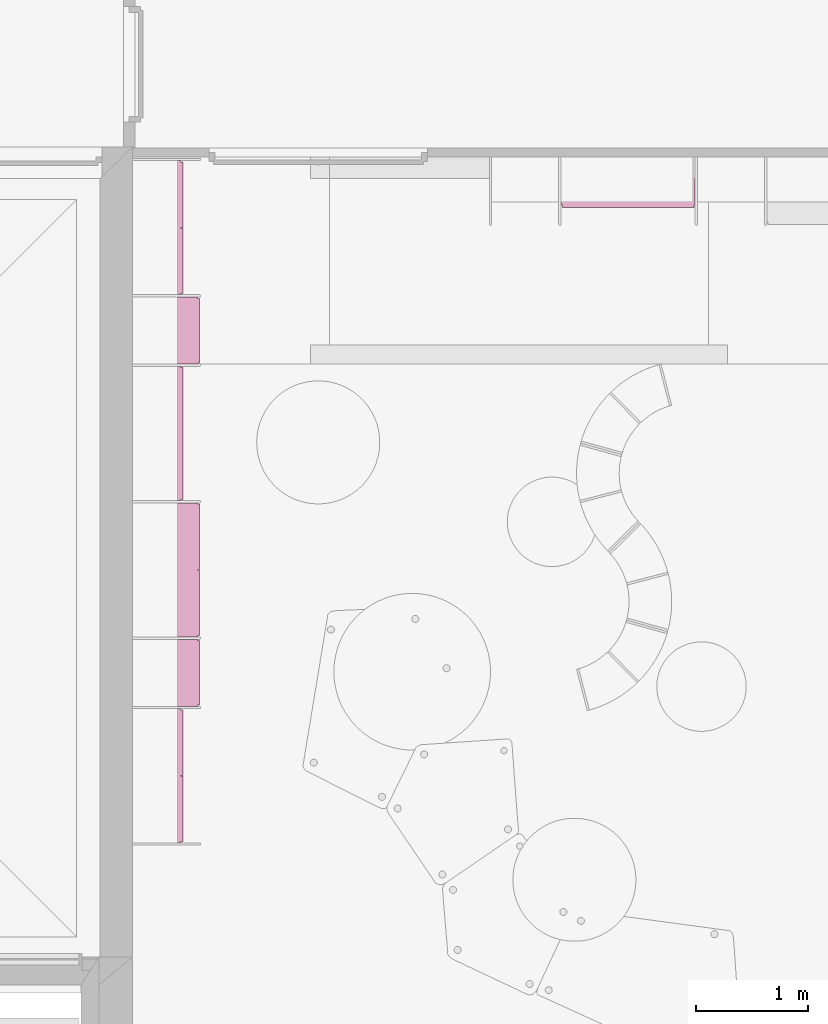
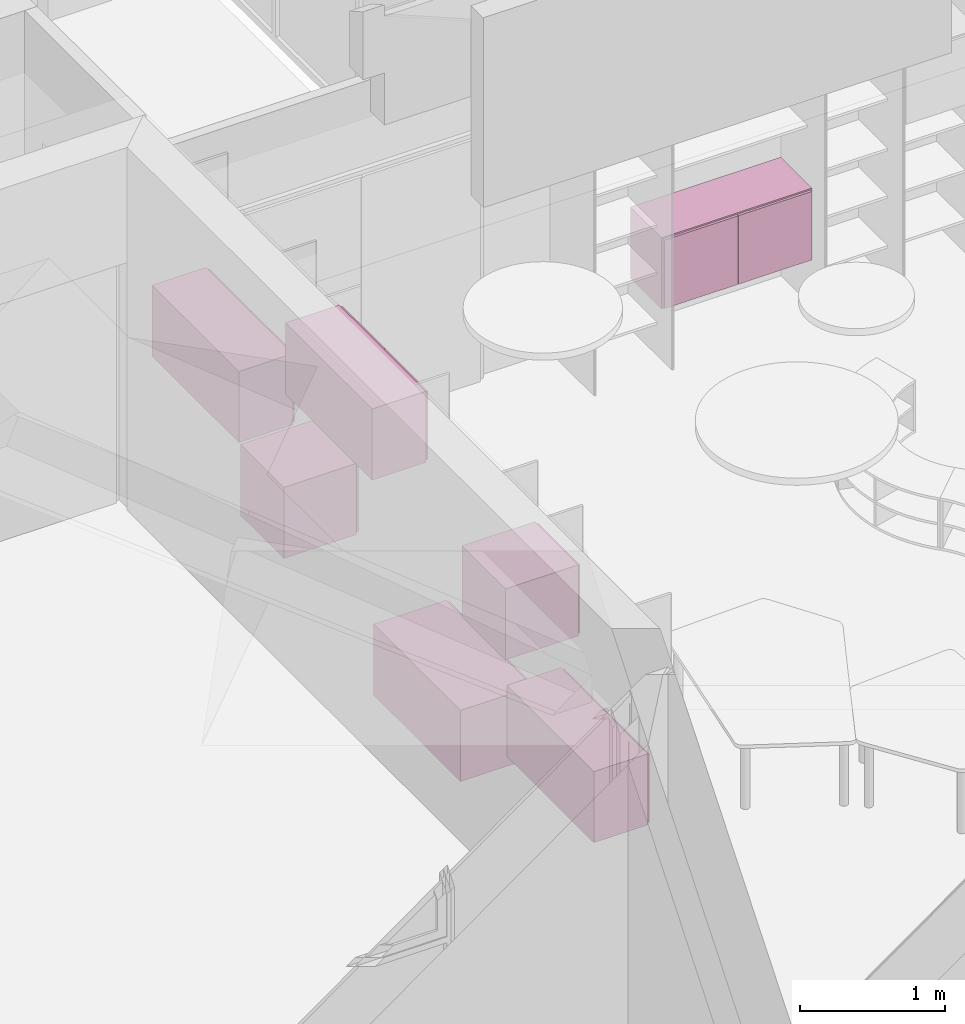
# One storey, part 49 of 64: 7 furnishings.
"""IFC2X3 building model written with IfcOpenShell, lengths in metres."""

from ifc_helpers import new_model, entity, si_unit, converted_unit, derived_unit, direction, frame, origin, place, context, subcontext, project, spatial, faceted_brep, source, transform, mapped, material, type_object, type_shapes, element, save


model = new_model("IFC2X3")

# Units and contexts
model_context = context("Model", 3, precision=1e-05, world=origin(), true_north=direction((6.123031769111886e-17, 1.0)))
body_context = subcontext(model_context, "Body", "Model", "MODEL_VIEW")
ifc_project = project(units=[si_unit("LENGTHUNIT", "METRE"), si_unit("AREAUNIT", "SQUARE_METRE"), si_unit("VOLUMEUNIT", "CUBIC_METRE"), converted_unit("PLANEANGLEUNIT", "DEGREE", entity("IfcRatioMeasure", 0.017453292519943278), si_unit("PLANEANGLEUNIT", "RADIAN"), dimensions=[0, 0, 0, 0, 0, 0, 0]), si_unit("MASSUNIT", "GRAM", prefix="KILO"), derived_unit("MASSDENSITYUNIT", [(si_unit("MASSUNIT", "GRAM", prefix="KILO"), 1), (si_unit("LENGTHUNIT", "METRE"), -3)]), derived_unit("MOMENTOFINERTIAUNIT", [(si_unit("LENGTHUNIT", "METRE"), 4)]), si_unit("TIMEUNIT", "SECOND"), si_unit("FREQUENCYUNIT", "HERTZ"), si_unit("THERMODYNAMICTEMPERATUREUNIT", "DEGREE_CELSIUS"), derived_unit("THERMALTRANSMITTANCEUNIT", [(si_unit("MASSUNIT", "GRAM", prefix="KILO"), 1), (si_unit("THERMODYNAMICTEMPERATUREUNIT", "KELVIN"), -1), (si_unit("TIMEUNIT", "SECOND"), -3)]), derived_unit("THERMALCONDUCTANCEUNIT", [(si_unit("MASSUNIT", "GRAM", prefix="KILO"), 1), (si_unit("LENGTHUNIT", "METRE"), 1), (si_unit("THERMODYNAMICTEMPERATUREUNIT", "KELVIN"), -1), (si_unit("TIMEUNIT", "SECOND"), -3)]), derived_unit("VOLUMETRICFLOWRATEUNIT", [(si_unit("LENGTHUNIT", "METRE"), 3), (si_unit("TIMEUNIT", "SECOND"), -1)]), derived_unit("MASSFLOWRATEUNIT", [(si_unit("MASSUNIT", "GRAM", prefix="KILO"), 1), (si_unit("TIMEUNIT", "SECOND"), -1)]), derived_unit("ROTATIONALFREQUENCYUNIT", [(si_unit("TIMEUNIT", "SECOND"), -1)]), si_unit("ELECTRICCURRENTUNIT", "AMPERE"), si_unit("ELECTRICVOLTAGEUNIT", "VOLT"), si_unit("POWERUNIT", "WATT"), si_unit("FORCEUNIT", "NEWTON", prefix="KILO"), si_unit("ILLUMINANCEUNIT", "LUX"), si_unit("LUMINOUSFLUXUNIT", "LUMEN"), si_unit("LUMINOUSINTENSITYUNIT", "CANDELA"), derived_unit("USERDEFINED", [(si_unit("MASSUNIT", "GRAM", prefix="KILO"), -1), (si_unit("LENGTHUNIT", "METRE"), -2), (si_unit("TIMEUNIT", "SECOND"), 3), (si_unit("LUMINOUSFLUXUNIT", "LUMEN"), 1)]), derived_unit("USERDEFINED", [(si_unit("MASSUNIT", "GRAM", prefix="KILO"), 1), (si_unit("LENGTHUNIT", "METRE"), 3), (si_unit("TIMEUNIT", "SECOND"), -3), (si_unit("ELECTRICCURRENTUNIT", "AMPERE"), -2)]), derived_unit("USERDEFINED", [(si_unit("LENGTHUNIT", "METRE"), 2), (si_unit("TIMEUNIT", "SECOND"), -2)]), derived_unit("SOUNDPOWERUNIT", [(si_unit("MASSUNIT", "GRAM", prefix="KILO"), 1), (si_unit("LENGTHUNIT", "METRE"), 2), (si_unit("TIMEUNIT", "SECOND"), -3)]), derived_unit("SOUNDPRESSUREUNIT", [(si_unit("MASSUNIT", "GRAM", prefix="KILO"), 1), (si_unit("LENGTHUNIT", "METRE"), -1), (si_unit("TIMEUNIT", "SECOND"), -2)]), derived_unit("LINEARVELOCITYUNIT", [(si_unit("LENGTHUNIT", "METRE"), 1), (si_unit("TIMEUNIT", "SECOND"), -1)]), si_unit("PRESSUREUNIT", "PASCAL"), derived_unit("USERDEFINED", [(si_unit("LENGTHUNIT", "METRE"), -2), (si_unit("MASSUNIT", "GRAM", prefix="KILO"), 1), (si_unit("TIMEUNIT", "SECOND"), -2)]), derived_unit("LINEARFORCEUNIT", [(si_unit("MASSUNIT", "GRAM", prefix="KILO"), 1), (si_unit("LENGTHUNIT", "METRE"), 1), (si_unit("TIMEUNIT", "SECOND"), -2), (si_unit("LENGTHUNIT", "METRE"), -1)]), derived_unit("PLANARFORCEUNIT", [(si_unit("MASSUNIT", "GRAM", prefix="KILO"), 1), (si_unit("LENGTHUNIT", "METRE"), 1), (si_unit("TIMEUNIT", "SECOND"), -2), (si_unit("LENGTHUNIT", "METRE"), -2)]), derived_unit("SPECIFICHEATCAPACITYUNIT", [(si_unit("LENGTHUNIT", "METRE"), 2), (si_unit("TIMEUNIT", "SECOND"), -2), (si_unit("THERMODYNAMICTEMPERATUREUNIT", "KELVIN"), -1)]), derived_unit("VAPORPERMEABILITYUNIT", [(si_unit("TIMEUNIT", "SECOND"), 1), (si_unit("LENGTHUNIT", "METRE"), -1)]), derived_unit("DYNAMICVISCOSITYUNIT", [(si_unit("MASSUNIT", "GRAM", prefix="KILO"), 1), (si_unit("LENGTHUNIT", "METRE"), -1), (si_unit("TIMEUNIT", "SECOND"), -1)]), derived_unit("THERMALEXPANSIONCOEFFICIENTUNIT", [(si_unit("THERMODYNAMICTEMPERATUREUNIT", "KELVIN"), -1)])], contexts=[model_context])

# Site, building, storey
site_placement = place(None, origin())
site = spatial("IfcSite", under=ifc_project, at=site_placement, Name="Default", CompositionType="ELEMENT")
building_placement = place(site_placement, origin())
building = spatial("IfcBuilding", under=site, at=building_placement, CompositionType="ELEMENT")
storey_placement = place(building_placement, origin())
storey = spatial("IfcBuildingStorey", under=building, at=storey_placement, Name="REZ-DE-CHAUSSÉE", CompositionType="ELEMENT", Elevation=0.0)

# Furnishings
ifc_material = material(Name="Peinture - Blanc titanium")
furnishing_element_type_1 = type_object("IfcFurnishingElementType", Name="Symb-0004", material=ifc_material)
shared_shape_1 = source(origin(), body_context, "Body", "Brep", [
    faceted_brep([(0.0, 1.1800000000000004, 0.01999999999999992), (0.0, 1.1800000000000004, 0.58), (0.019999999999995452, 1.1800000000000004, 0.58), (0.019999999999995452, 1.1800000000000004, 0.01999999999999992), (0.0, 0.019999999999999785, 0.01999999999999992), (0.0, 0.019999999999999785, 0.58), (0.019999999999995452, 0.019999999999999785, 0.58), (0.019999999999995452, 0.019999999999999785, 0.01999999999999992), (0.4300000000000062, 0.0, 0.0), (0.0, 0.0, 0.0), (0.0, 0.019999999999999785, 0.0), (0.4300000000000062, 0.019999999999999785, 0.0), (0.4300000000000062, 0.0, 0.6000000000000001), (0.0, 0.0, 0.6000000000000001), (0.0, 0.019999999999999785, 0.6000000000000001), (0.4300000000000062, 0.019999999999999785, 0.6000000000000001), (0.4300000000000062, 1.1800000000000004, 0.0), (0.0, 1.1800000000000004, 0.0), (0.0, 1.2000000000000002, 0.0), (0.4300000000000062, 1.2000000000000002, 0.0), (0.4300000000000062, 1.1800000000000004, 0.6000000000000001), (0.0, 1.1800000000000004, 0.6000000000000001), (0.0, 1.2000000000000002, 0.6000000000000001), (0.4300000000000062, 1.2000000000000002, 0.6000000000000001), (0.4300000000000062, 0.019999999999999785, 0.01999999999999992), (0.4300000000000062, 1.1800000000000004, 0.01999999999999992), (0.4300000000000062, 0.019999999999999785, 0.58), (0.4300000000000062, 1.1800000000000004, 0.58), (0.019999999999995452, 1.1800000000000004, 0.0), (0.019999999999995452, 0.019999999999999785, 0.0), (0.4300000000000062, 1.1885000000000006, 0.011499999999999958), (0.4500000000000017, 1.1885000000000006, 0.011499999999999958), (0.4500000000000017, 0.6014999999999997, 0.011499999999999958), (0.4300000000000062, 0.6014999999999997, 0.011499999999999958), (0.4300000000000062, 1.1885000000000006, 0.5884999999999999), (0.4500000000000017, 1.1885000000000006, 0.5884999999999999), (0.4500000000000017, 0.6014999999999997, 0.5884999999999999), (0.4300000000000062, 0.6014999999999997, 0.5884999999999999), (0.4300000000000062, 0.011499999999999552, 0.011499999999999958), (0.4300000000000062, 0.5985000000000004, 0.011499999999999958), (0.4500000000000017, 0.5985000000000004, 0.011499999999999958), (0.4500000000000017, 0.011499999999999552, 0.011499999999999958), (0.4300000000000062, 0.011499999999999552, 0.5884999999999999), (0.4300000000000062, 0.5985000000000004, 0.5884999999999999), (0.4500000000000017, 0.5985000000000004, 0.5884999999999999), (0.4500000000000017, 0.011499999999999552, 0.5884999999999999)], [[[0, 1, 2, 3]], [[4, 5, 1, 0]], [[1, 5, 6, 2]], [[3, 2, 6, 7]], [[0, 3, 7, 4]], [[7, 6, 5, 4]], [[8, 9, 10, 11]], [[8, 12, 13, 9]], [[9, 13, 14, 10]], [[10, 14, 15, 11]], [[11, 15, 12, 8]], [[15, 14, 13, 12]], [[16, 17, 18, 19]], [[16, 20, 21, 17]], [[17, 21, 22, 18]], [[18, 22, 23, 19]], [[19, 23, 20, 16]], [[23, 22, 21, 20]], [[11, 10, 17, 16]], [[11, 24, 4, 10]], [[10, 4, 0, 17]], [[17, 0, 25, 16]], [[16, 25, 24, 11]], [[25, 0, 4, 24]], [[26, 5, 1, 27]], [[26, 15, 14, 5]], [[5, 14, 21, 1]], [[1, 21, 20, 27]], [[27, 20, 15, 26]], [[20, 21, 14, 15]], [[17, 28, 29, 10]], [[18, 19, 16, 17]], [[10, 11, 8, 9]], [[30, 31, 32, 33]], [[34, 35, 31, 30]], [[31, 35, 36, 32]], [[33, 32, 36, 37]], [[30, 33, 37, 34]], [[37, 36, 35, 34]], [[38, 39, 40, 41]], [[38, 42, 43, 39]], [[39, 43, 44, 40]], [[41, 40, 44, 45]], [[42, 38, 41, 45]], [[43, 42, 45, 44]]]),
])
type_shapes(furnishing_element_type_1, [shared_shape_1])
furnishing_1_placement = place(storey_placement, frame((110.17075228, 12.197209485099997, 1.1)))
element("IfcFurnishingElement", 1, at=furnishing_1_placement, inside=storey, type_object=furnishing_element_type_1, material=ifc_material, Name="Symb-0004 152170:Symb-0004 152170", ObjectType="Symb-0004 152170:Symb-0004 152170", context=body_context, shape_type="MappedRepresentation", body=[
    mapped(shared_shape_1, transform((0.0, 0.0, 0.0), scale=1.0)),
])
furnishing_element_type_2 = type_object("IfcFurnishingElementType", Name="Symb-0008", material=ifc_material)
shared_shape_2 = source(origin(), body_context, "Body", "Brep", [
    faceted_brep([(0.0, 1.1800000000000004, 0.02000000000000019), (0.0, 1.1800000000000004, 0.58), (0.019999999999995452, 1.1800000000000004, 0.58), (0.019999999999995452, 1.1800000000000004, 0.02000000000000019), (0.0, 0.019999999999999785, 0.02000000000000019), (0.0, 0.019999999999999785, 0.58), (0.019999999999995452, 0.019999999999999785, 0.58), (0.019999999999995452, 0.019999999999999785, 0.02000000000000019), (0.4300000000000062, 0.0, 0.0), (0.0, 0.0, 0.0), (0.0, 0.019999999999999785, 0.0), (0.4300000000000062, 0.019999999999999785, 0.0), (0.4300000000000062, 0.0, 0.6000000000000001), (0.0, 0.0, 0.6000000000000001), (0.0, 0.019999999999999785, 0.6000000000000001), (0.4300000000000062, 0.019999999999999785, 0.6000000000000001), (0.4300000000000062, 1.1800000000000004, 0.0), (0.0, 1.1800000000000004, 0.0), (0.0, 1.199999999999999, 0.0), (0.4300000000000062, 1.199999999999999, 0.0), (0.4300000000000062, 1.1800000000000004, 0.6000000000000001), (0.0, 1.1800000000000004, 0.6000000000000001), (0.0, 1.199999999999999, 0.6000000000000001), (0.4300000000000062, 1.199999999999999, 0.6000000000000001), (0.4300000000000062, 0.019999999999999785, 0.02000000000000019), (0.4300000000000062, 1.1800000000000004, 0.02000000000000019), (0.4300000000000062, 0.019999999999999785, 0.58), (0.4300000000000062, 1.1800000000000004, 0.58), (0.019999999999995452, 1.1800000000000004, 0.0), (0.019999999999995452, 0.019999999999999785, 0.0), (0.4300000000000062, 1.1884999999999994, 0.011500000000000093), (0.4500000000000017, 1.1884999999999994, 0.011500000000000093), (0.4500000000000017, 0.6014999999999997, 0.011500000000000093), (0.4300000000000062, 0.6014999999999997, 0.011500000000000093), (0.4300000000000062, 1.1884999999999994, 0.5885000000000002), (0.4500000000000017, 1.1884999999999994, 0.5885000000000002), (0.4500000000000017, 0.6014999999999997, 0.5885000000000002), (0.4300000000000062, 0.6014999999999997, 0.5885000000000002), (0.4300000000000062, 0.011499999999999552, 0.011500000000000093), (0.4300000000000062, 0.5984999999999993, 0.011500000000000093), (0.4500000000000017, 0.5984999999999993, 0.011500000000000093), (0.4500000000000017, 0.011499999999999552, 0.011500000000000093), (0.4300000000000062, 0.011499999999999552, 0.5885000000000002), (0.4300000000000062, 0.5984999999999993, 0.5885000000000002), (0.4500000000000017, 0.5984999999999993, 0.5885000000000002), (0.4500000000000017, 0.011499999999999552, 0.5885000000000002)], [[[0, 1, 2, 3]], [[4, 5, 1, 0]], [[1, 5, 6, 2]], [[3, 2, 6, 7]], [[0, 3, 7, 4]], [[7, 6, 5, 4]], [[8, 9, 10, 11]], [[8, 12, 13, 9]], [[9, 13, 14, 10]], [[10, 14, 15, 11]], [[11, 15, 12, 8]], [[15, 14, 13, 12]], [[16, 17, 18, 19]], [[16, 20, 21, 17]], [[17, 21, 22, 18]], [[18, 22, 23, 19]], [[19, 23, 20, 16]], [[23, 22, 21, 20]], [[11, 10, 17, 16]], [[11, 24, 4, 10]], [[10, 4, 0, 17]], [[17, 0, 25, 16]], [[16, 25, 24, 11]], [[25, 0, 4, 24]], [[26, 5, 1, 27]], [[26, 15, 14, 5]], [[5, 14, 21, 1]], [[1, 21, 20, 27]], [[27, 20, 15, 26]], [[20, 21, 14, 15]], [[17, 28, 29, 10]], [[18, 19, 16, 17]], [[10, 11, 8, 9]], [[30, 31, 32, 33]], [[34, 35, 31, 30]], [[31, 35, 36, 32]], [[33, 32, 36, 37]], [[30, 33, 37, 34]], [[37, 36, 35, 34]], [[38, 39, 40, 41]], [[38, 42, 43, 39]], [[39, 43, 44, 40]], [[41, 40, 44, 45]], [[42, 38, 41, 45]], [[43, 42, 45, 44]]]),
])
type_shapes(furnishing_element_type_2, [shared_shape_2])
furnishing_2_placement = place(storey_placement, frame((110.17075228, 7.297209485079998, 0.6999999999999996)))
element("IfcFurnishingElement", 2, at=furnishing_2_placement, inside=storey, type_object=furnishing_element_type_2, material=ifc_material, Name="Symb-0008 152213:Symb-0008 152213", ObjectType="Symb-0008 152213:Symb-0008 152213", context=body_context, shape_type="MappedRepresentation", body=[
    mapped(shared_shape_2, transform((0.0, 0.0, 0.0), scale=1.0)),
])
furnishing_element_type_3 = type_object("IfcFurnishingElementType", Name="Symb-0006", material=ifc_material)
shared_shape_3 = source(origin(), body_context, "Body", "Brep", [
    faceted_brep([(0.0, 1.1800000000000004, 0.019999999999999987), (0.0, 1.1800000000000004, 0.5799999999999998), (0.019999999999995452, 1.1800000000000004, 0.5799999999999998), (0.019999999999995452, 1.1800000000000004, 0.019999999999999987), (0.0, 0.019999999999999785, 0.019999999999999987), (0.0, 0.019999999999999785, 0.5799999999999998), (0.019999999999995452, 0.019999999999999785, 0.5799999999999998), (0.019999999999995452, 0.019999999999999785, 0.019999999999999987), (0.5799999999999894, 0.0, 0.0), (0.0, 0.0, 0.0), (0.0, 0.019999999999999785, 0.0), (0.5799999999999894, 0.019999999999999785, 0.0), (0.5799999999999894, 0.0, 0.5999999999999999), (0.0, 0.0, 0.5999999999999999), (0.0, 0.019999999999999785, 0.5999999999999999), (0.5799999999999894, 0.019999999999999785, 0.5999999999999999), (0.5799999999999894, 1.1800000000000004, 0.0), (0.0, 1.1800000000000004, 0.0), (0.0, 1.2000000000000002, 0.0), (0.5799999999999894, 1.2000000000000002, 0.0), (0.5799999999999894, 1.1800000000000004, 0.5999999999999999), (0.0, 1.1800000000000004, 0.5999999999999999), (0.0, 1.2000000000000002, 0.5999999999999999), (0.5799999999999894, 1.2000000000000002, 0.5999999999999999), (0.5799999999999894, 0.019999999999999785, 0.019999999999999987), (0.5799999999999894, 1.1800000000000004, 0.019999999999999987), (0.5799999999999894, 0.019999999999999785, 0.5799999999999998), (0.5799999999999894, 1.1800000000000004, 0.5799999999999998), (0.019999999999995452, 1.1800000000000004, 0.0), (0.019999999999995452, 0.019999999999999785, 0.0), (0.5799999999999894, 1.1885000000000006, 0.011499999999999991), (0.6000000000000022, 1.1885000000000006, 0.011499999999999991), (0.6000000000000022, 0.6014999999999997, 0.011499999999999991), (0.5799999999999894, 0.6014999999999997, 0.011499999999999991), (0.5799999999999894, 1.1885000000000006, 0.5884999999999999), (0.6000000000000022, 1.1885000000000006, 0.5884999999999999), (0.6000000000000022, 0.6014999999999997, 0.5884999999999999), (0.5799999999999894, 0.6014999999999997, 0.5884999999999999), (0.5799999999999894, 0.011499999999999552, 0.011499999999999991), (0.5799999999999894, 0.5984999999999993, 0.011499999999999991), (0.6000000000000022, 0.5984999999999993, 0.011499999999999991), (0.6000000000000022, 0.011499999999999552, 0.011499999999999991), (0.5799999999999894, 0.011499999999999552, 0.5884999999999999), (0.5799999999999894, 0.5984999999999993, 0.5884999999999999), (0.6000000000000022, 0.5984999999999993, 0.5884999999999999), (0.6000000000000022, 0.011499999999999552, 0.5884999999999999)], [[[0, 1, 2, 3]], [[4, 5, 1, 0]], [[1, 5, 6, 2]], [[3, 2, 6, 7]], [[0, 3, 7, 4]], [[7, 6, 5, 4]], [[8, 9, 10, 11]], [[8, 12, 13, 9]], [[9, 13, 14, 10]], [[10, 14, 15, 11]], [[11, 15, 12, 8]], [[15, 14, 13, 12]], [[16, 17, 18, 19]], [[16, 20, 21, 17]], [[17, 21, 22, 18]], [[18, 22, 23, 19]], [[19, 23, 20, 16]], [[23, 22, 21, 20]], [[11, 10, 17, 16]], [[11, 24, 4, 10]], [[10, 4, 0, 17]], [[17, 0, 25, 16]], [[16, 25, 24, 11]], [[25, 0, 4, 24]], [[26, 5, 1, 27]], [[26, 15, 14, 5]], [[5, 14, 21, 1]], [[1, 21, 20, 27]], [[27, 20, 15, 26]], [[20, 21, 14, 15]], [[17, 28, 29, 10]], [[18, 19, 16, 17]], [[10, 11, 8, 9]], [[30, 31, 32, 33]], [[34, 35, 31, 30]], [[31, 35, 36, 32]], [[33, 32, 36, 37]], [[30, 33, 37, 34]], [[37, 36, 35, 34]], [[38, 39, 40, 41]], [[38, 42, 43, 39]], [[39, 43, 44, 40]], [[41, 40, 44, 45]], [[42, 38, 41, 45]], [[43, 42, 45, 44]]]),
])
type_shapes(furnishing_element_type_3, [shared_shape_3])
furnishing_3_placement = place(storey_placement, frame((110.17075228, 9.13720948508, 0.1)))
element("IfcFurnishingElement", 3, at=furnishing_3_placement, inside=storey, type_object=furnishing_element_type_3, material=ifc_material, Name="Symb-0006:Symb-0006", ObjectType="Symb-0006:Symb-0006", context=body_context, shape_type="MappedRepresentation", body=[
    mapped(shared_shape_3, transform((0.0, 0.0, 0.0), scale=1.0)),
])
furnishing_element_type_4 = type_object("IfcFurnishingElementType", Name="Symb-0007", material=ifc_material)
shared_shape_4 = source(origin(), body_context, "Body", "Brep", [
    faceted_brep([(0.0, 0.5799999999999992, 0.020000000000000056), (0.0, 0.5799999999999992, 0.58), (0.019999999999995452, 0.5799999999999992, 0.58), (0.019999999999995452, 0.5799999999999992, 0.020000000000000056), (0.0, 0.019999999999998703, 0.020000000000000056), (0.0, 0.019999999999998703, 0.58), (0.019999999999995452, 0.019999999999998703, 0.58), (0.019999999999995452, 0.019999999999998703, 0.020000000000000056), (0.5799999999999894, 0.0, 0.0), (0.0, 0.0, 0.0), (0.0, 0.019999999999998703, 0.0), (0.5799999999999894, 0.019999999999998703, 0.0), (0.5799999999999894, 0.0, 0.6000000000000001), (0.0, 0.0, 0.6000000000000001), (0.0, 0.019999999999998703, 0.6000000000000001), (0.5799999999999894, 0.019999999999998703, 0.6000000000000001), (0.5799999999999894, 0.5799999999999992, 0.0), (0.0, 0.5799999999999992, 0.0), (0.0, 0.5999999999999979, 0.0), (0.5799999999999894, 0.5999999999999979, 0.0), (0.5799999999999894, 0.5799999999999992, 0.6000000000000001), (0.0, 0.5799999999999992, 0.6000000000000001), (0.0, 0.5999999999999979, 0.6000000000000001), (0.5799999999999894, 0.5999999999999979, 0.6000000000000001), (0.5799999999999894, 0.019999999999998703, 0.020000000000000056), (0.5799999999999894, 0.5799999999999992, 0.020000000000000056), (0.5799999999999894, 0.019999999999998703, 0.58), (0.5799999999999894, 0.5799999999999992, 0.58), (0.019999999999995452, 0.5799999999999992, 0.0), (0.019999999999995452, 0.019999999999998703, 0.0), (0.5799999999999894, 0.5884999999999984, 0.011500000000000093), (0.6000000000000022, 0.5884999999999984, 0.011500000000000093), (0.6000000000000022, 0.011499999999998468, 0.011500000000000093), (0.5799999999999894, 0.011499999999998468, 0.011500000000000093), (0.5799999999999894, 0.5884999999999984, 0.5884999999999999), (0.6000000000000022, 0.5884999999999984, 0.5884999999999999), (0.6000000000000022, 0.011499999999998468, 0.5884999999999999), (0.5799999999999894, 0.011499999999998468, 0.5884999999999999)], [[[0, 1, 2, 3]], [[4, 5, 1, 0]], [[1, 5, 6, 2]], [[3, 2, 6, 7]], [[0, 3, 7, 4]], [[7, 6, 5, 4]], [[8, 9, 10, 11]], [[8, 12, 13, 9]], [[9, 13, 14, 10]], [[10, 14, 15, 11]], [[11, 15, 12, 8]], [[15, 14, 13, 12]], [[16, 17, 18, 19]], [[16, 20, 21, 17]], [[17, 21, 22, 18]], [[18, 22, 23, 19]], [[19, 23, 20, 16]], [[23, 22, 21, 20]], [[11, 10, 17, 16]], [[11, 24, 4, 10]], [[10, 4, 0, 17]], [[17, 0, 25, 16]], [[16, 25, 24, 11]], [[25, 0, 4, 24]], [[26, 5, 1, 27]], [[26, 15, 14, 5]], [[5, 14, 21, 1]], [[1, 21, 20, 27]], [[27, 20, 15, 26]], [[20, 21, 14, 15]], [[17, 28, 29, 10]], [[18, 19, 16, 17]], [[10, 11, 8, 9]], [[30, 31, 32, 33]], [[34, 35, 31, 30]], [[31, 35, 36, 32]], [[33, 32, 36, 37]], [[30, 33, 37, 34]], [[37, 36, 35, 34]]]),
])
type_shapes(furnishing_element_type_4, [shared_shape_4])
furnishing_4_placement = place(storey_placement, frame((110.17075228, 8.51720948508, 1.4999999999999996)))
element("IfcFurnishingElement", 4, at=furnishing_4_placement, inside=storey, type_object=furnishing_element_type_4, material=ifc_material, Name="Symb-0007:Symb-0007", ObjectType="Symb-0007:Symb-0007", context=body_context, shape_type="MappedRepresentation", body=[
    mapped(shared_shape_4, transform((0.0, 0.0, 0.0), scale=1.0)),
])
furnishing_element_type_5 = type_object("IfcFurnishingElementType", Name="Symb-0007", material=ifc_material)
shared_shape_5 = source(origin(), body_context, "Body", "Brep", [
    faceted_brep([(0.0, 0.5800000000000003, 0.01999999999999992), (0.0, 0.5800000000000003, 0.58), (0.019999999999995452, 0.5800000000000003, 0.58), (0.019999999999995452, 0.5800000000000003, 0.01999999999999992), (0.0, 0.019999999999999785, 0.01999999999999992), (0.0, 0.019999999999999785, 0.58), (0.019999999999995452, 0.019999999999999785, 0.58), (0.019999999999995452, 0.019999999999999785, 0.01999999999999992), (0.5799999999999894, 0.0, 0.0), (0.0, 0.0, 0.0), (0.0, 0.019999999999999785, 0.0), (0.5799999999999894, 0.019999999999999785, 0.0), (0.5799999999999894, 0.0, 0.6000000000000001), (0.0, 0.0, 0.6000000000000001), (0.0, 0.019999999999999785, 0.6000000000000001), (0.5799999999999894, 0.019999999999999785, 0.6000000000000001), (0.5799999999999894, 0.5800000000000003, 0.0), (0.0, 0.5800000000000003, 0.0), (0.0, 0.5999999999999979, 0.0), (0.5799999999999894, 0.5999999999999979, 0.0), (0.5799999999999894, 0.5800000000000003, 0.6000000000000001), (0.0, 0.5800000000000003, 0.6000000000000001), (0.0, 0.5999999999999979, 0.6000000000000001), (0.5799999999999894, 0.5999999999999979, 0.6000000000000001), (0.5799999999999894, 0.019999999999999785, 0.01999999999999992), (0.5799999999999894, 0.5800000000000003, 0.01999999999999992), (0.5799999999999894, 0.019999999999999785, 0.58), (0.5799999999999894, 0.5800000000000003, 0.58), (0.019999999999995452, 0.5800000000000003, 0.0), (0.019999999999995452, 0.019999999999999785, 0.0), (0.5799999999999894, 0.5884999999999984, 0.01149999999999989), (0.6000000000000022, 0.5884999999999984, 0.01149999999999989), (0.6000000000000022, 0.011499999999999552, 0.01149999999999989), (0.5799999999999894, 0.011499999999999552, 0.01149999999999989), (0.5799999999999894, 0.5884999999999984, 0.5884999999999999), (0.6000000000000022, 0.5884999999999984, 0.5884999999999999), (0.6000000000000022, 0.011499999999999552, 0.5884999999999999), (0.5799999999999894, 0.011499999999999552, 0.5884999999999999)], [[[0, 1, 2, 3]], [[4, 5, 1, 0]], [[1, 5, 6, 2]], [[3, 2, 6, 7]], [[0, 3, 7, 4]], [[7, 6, 5, 4]], [[8, 9, 10, 11]], [[8, 12, 13, 9]], [[9, 13, 14, 10]], [[10, 14, 15, 11]], [[11, 15, 12, 8]], [[15, 14, 13, 12]], [[16, 17, 18, 19]], [[16, 20, 21, 17]], [[17, 21, 22, 18]], [[18, 22, 23, 19]], [[19, 23, 20, 16]], [[23, 22, 21, 20]], [[11, 10, 17, 16]], [[11, 24, 4, 10]], [[10, 4, 0, 17]], [[17, 0, 25, 16]], [[16, 25, 24, 11]], [[25, 0, 4, 24]], [[26, 5, 1, 27]], [[26, 15, 14, 5]], [[5, 14, 21, 1]], [[1, 21, 20, 27]], [[27, 20, 15, 26]], [[20, 21, 14, 15]], [[17, 28, 29, 10]], [[18, 19, 16, 17]], [[10, 11, 8, 9]], [[30, 31, 32, 33]], [[34, 35, 31, 30]], [[31, 35, 36, 32]], [[33, 32, 36, 37]], [[30, 33, 37, 34]], [[37, 36, 35, 34]]]),
])
type_shapes(furnishing_element_type_5, [shared_shape_5])
furnishing_5_placement = place(storey_placement, frame((110.17075228, 11.5772094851, 0.4999999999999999)))
element("IfcFurnishingElement", 5, at=furnishing_5_placement, inside=storey, type_object=furnishing_element_type_5, material=ifc_material, Name="Symb-0007 153162:Symb-0007 153162", ObjectType="Symb-0007 153162:Symb-0007 153162", context=body_context, shape_type="MappedRepresentation", body=[
    mapped(shared_shape_5, transform((0.0, 0.0, 0.0), scale=1.0)),
])
furnishing_element_type_6 = type_object("IfcFurnishingElementType", Name="Symb-0004", material=ifc_material)
shared_shape_6 = source(origin(), body_context, "Body", "Brep", [
    faceted_brep([(0.0, 1.1800000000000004, 0.020000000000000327), (0.0, 1.1800000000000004, 0.5800000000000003), (0.019999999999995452, 1.1800000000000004, 0.5800000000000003), (0.019999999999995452, 1.1800000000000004, 0.020000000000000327), (0.0, 0.019999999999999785, 0.020000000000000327), (0.0, 0.019999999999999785, 0.5800000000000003), (0.019999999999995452, 0.019999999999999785, 0.5800000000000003), (0.019999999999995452, 0.019999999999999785, 0.020000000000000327), (0.4300000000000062, 0.0, 0.0), (0.0, 0.0, 0.0), (0.0, 0.019999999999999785, 0.0), (0.4300000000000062, 0.019999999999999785, 0.0), (0.4300000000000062, 0.0, 0.6000000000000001), (0.0, 0.0, 0.6000000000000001), (0.0, 0.019999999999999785, 0.6000000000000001), (0.4300000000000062, 0.019999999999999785, 0.6000000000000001), (0.4300000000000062, 1.1800000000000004, 0.0), (0.0, 1.1800000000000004, 0.0), (0.0, 1.2000000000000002, 0.0), (0.4300000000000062, 1.2000000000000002, 0.0), (0.4300000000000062, 1.1800000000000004, 0.6000000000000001), (0.0, 1.1800000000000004, 0.6000000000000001), (0.0, 1.2000000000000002, 0.6000000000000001), (0.4300000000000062, 1.2000000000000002, 0.6000000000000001), (0.4300000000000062, 0.019999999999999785, 0.020000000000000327), (0.4300000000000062, 1.1800000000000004, 0.020000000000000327), (0.4300000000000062, 0.019999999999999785, 0.5800000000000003), (0.4300000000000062, 1.1800000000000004, 0.5800000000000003), (0.019999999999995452, 1.1800000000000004, 0.0), (0.019999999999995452, 0.019999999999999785, 0.0), (0.4300000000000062, 1.1885000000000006, 0.011500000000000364), (0.4500000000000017, 1.1885000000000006, 0.011500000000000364), (0.4500000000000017, 0.6014999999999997, 0.011500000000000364), (0.4300000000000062, 0.6014999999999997, 0.011500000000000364), (0.4300000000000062, 1.1885000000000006, 0.5885000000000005), (0.4500000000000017, 1.1885000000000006, 0.5885000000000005), (0.4500000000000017, 0.6014999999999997, 0.5885000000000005), (0.4300000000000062, 0.6014999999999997, 0.5885000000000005), (0.4300000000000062, 0.011499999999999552, 0.011500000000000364), (0.4300000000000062, 0.5985000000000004, 0.011500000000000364), (0.4500000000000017, 0.5985000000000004, 0.011500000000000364), (0.4500000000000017, 0.011499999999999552, 0.011500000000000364), (0.4300000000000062, 0.011499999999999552, 0.5885000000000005), (0.4300000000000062, 0.5985000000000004, 0.5885000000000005), (0.4500000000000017, 0.5985000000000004, 0.5885000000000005), (0.4500000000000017, 0.011499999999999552, 0.5885000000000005)], [[[0, 1, 2, 3]], [[4, 5, 1, 0]], [[1, 5, 6, 2]], [[3, 2, 6, 7]], [[0, 3, 7, 4]], [[7, 6, 5, 4]], [[8, 9, 10, 11]], [[8, 12, 13, 9]], [[9, 13, 14, 10]], [[10, 14, 15, 11]], [[11, 15, 12, 8]], [[15, 14, 13, 12]], [[16, 17, 18, 19]], [[16, 20, 21, 17]], [[17, 21, 22, 18]], [[18, 22, 23, 19]], [[19, 23, 20, 16]], [[23, 22, 21, 20]], [[11, 10, 17, 16]], [[11, 24, 4, 10]], [[10, 4, 0, 17]], [[17, 0, 25, 16]], [[16, 25, 24, 11]], [[25, 0, 4, 24]], [[26, 5, 1, 27]], [[26, 15, 14, 5]], [[5, 14, 21, 1]], [[1, 21, 20, 27]], [[27, 20, 15, 26]], [[20, 21, 14, 15]], [[17, 28, 29, 10]], [[18, 19, 16, 17]], [[10, 11, 8, 9]], [[30, 31, 32, 33]], [[34, 35, 31, 30]], [[31, 35, 36, 32]], [[33, 32, 36, 37]], [[30, 33, 37, 34]], [[37, 36, 35, 34]], [[38, 39, 40, 41]], [[38, 42, 43, 39]], [[39, 43, 44, 40]], [[41, 40, 44, 45]], [[42, 38, 41, 45]], [[43, 42, 45, 44]]]),
])
type_shapes(furnishing_element_type_6, [shared_shape_6])
furnishing_6_placement = place(storey_placement, frame((110.17075228, 10.357209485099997, 1.8999999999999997)))
element("IfcFurnishingElement", 6, at=furnishing_6_placement, inside=storey, type_object=furnishing_element_type_6, material=ifc_material, Name="Symb-0004 153277:Symb-0004 153277", ObjectType="Symb-0004 153277:Symb-0004 153277", context=body_context, shape_type="MappedRepresentation", body=[
    mapped(shared_shape_6, transform((0.0, 0.0, 0.0), scale=1.0)),
])
furnishing_element_type_7 = type_object("IfcFurnishingElementType", Name="Symb-0004", material=ifc_material)
shared_shape_7 = source(origin(), body_context, "Body", "Brep", [
    faceted_brep([(1.180000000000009, 0.4499999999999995, 0.01999999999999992), (1.180000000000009, 0.4499999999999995, 0.5799999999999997), (1.180000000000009, 0.4299999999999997, 0.5799999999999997), (1.180000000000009, 0.4299999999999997, 0.01999999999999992), (0.019999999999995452, 0.4499999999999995, 0.01999999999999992), (0.019999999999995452, 0.4499999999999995, 0.5799999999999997), (0.019999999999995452, 0.4299999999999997, 0.5799999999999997), (0.019999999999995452, 0.4299999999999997, 0.01999999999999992), (0.0, 0.019999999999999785, 0.0), (0.0, 0.4499999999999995, 0.0), (0.019999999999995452, 0.4499999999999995, 0.0), (0.019999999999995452, 0.019999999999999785, 0.0), (0.0, 0.019999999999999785, 0.5999999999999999), (0.0, 0.4499999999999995, 0.5999999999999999), (0.019999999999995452, 0.4499999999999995, 0.5999999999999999), (0.019999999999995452, 0.019999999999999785, 0.5999999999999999), (1.180000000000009, 0.019999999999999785, 0.0), (1.180000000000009, 0.4499999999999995, 0.0), (1.2000000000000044, 0.4499999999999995, 0.0), (1.2000000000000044, 0.019999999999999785, 0.0), (1.180000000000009, 0.019999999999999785, 0.5999999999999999), (1.180000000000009, 0.4499999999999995, 0.5999999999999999), (1.2000000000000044, 0.4499999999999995, 0.5999999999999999), (1.2000000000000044, 0.019999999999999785, 0.5999999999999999), (0.019999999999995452, 0.019999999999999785, 0.01999999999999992), (1.180000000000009, 0.019999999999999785, 0.01999999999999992), (0.019999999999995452, 0.019999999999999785, 0.5799999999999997), (1.180000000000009, 0.019999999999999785, 0.5799999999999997), (1.180000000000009, 0.4299999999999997, 0.0), (0.019999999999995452, 0.4299999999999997, 0.0), (1.1885000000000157, 0.019999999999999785, 0.01149999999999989), (1.1885000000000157, 0.0, 0.01149999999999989), (0.6015000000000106, 0.0, 0.01149999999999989), (0.6015000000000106, 0.019999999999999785, 0.01149999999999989), (1.1885000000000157, 0.019999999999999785, 0.5884999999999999), (1.1885000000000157, 0.0, 0.5884999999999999), (0.6015000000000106, 0.0, 0.5884999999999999), (0.6015000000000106, 0.019999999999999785, 0.5884999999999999), (0.011500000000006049, 0.019999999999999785, 0.01149999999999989), (0.5985000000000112, 0.019999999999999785, 0.01149999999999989), (0.5985000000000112, 0.0, 0.01149999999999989), (0.011500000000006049, 0.0, 0.01149999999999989), (0.011500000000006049, 0.019999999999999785, 0.5884999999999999), (0.5985000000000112, 0.019999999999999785, 0.5884999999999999), (0.5985000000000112, 0.0, 0.5884999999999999), (0.011500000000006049, 0.0, 0.5884999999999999)], [[[0, 1, 2, 3]], [[4, 5, 1, 0]], [[1, 5, 6, 2]], [[3, 2, 6, 7]], [[0, 3, 7, 4]], [[7, 6, 5, 4]], [[8, 9, 10, 11]], [[8, 12, 13, 9]], [[9, 13, 14, 10]], [[10, 14, 15, 11]], [[11, 15, 12, 8]], [[15, 14, 13, 12]], [[16, 17, 18, 19]], [[16, 20, 21, 17]], [[17, 21, 22, 18]], [[18, 22, 23, 19]], [[19, 23, 20, 16]], [[23, 22, 21, 20]], [[11, 10, 17, 16]], [[11, 24, 4, 10]], [[10, 4, 0, 17]], [[17, 0, 25, 16]], [[16, 25, 24, 11]], [[25, 0, 4, 24]], [[26, 5, 1, 27]], [[26, 15, 14, 5]], [[5, 14, 21, 1]], [[1, 21, 20, 27]], [[27, 20, 15, 26]], [[20, 21, 14, 15]], [[17, 28, 29, 10]], [[18, 19, 16, 17]], [[10, 11, 8, 9]], [[30, 31, 32, 33]], [[34, 35, 31, 30]], [[31, 35, 36, 32]], [[33, 32, 36, 37]], [[30, 33, 37, 34]], [[37, 36, 35, 34]], [[38, 39, 40, 41]], [[38, 42, 43, 39]], [[39, 43, 44, 40]], [[41, 40, 44, 45]], [[42, 38, 41, 45]], [[43, 42, 45, 44]]]),
])
type_shapes(furnishing_element_type_7, [shared_shape_7])
furnishing_7_placement = place(storey_placement, frame((114.00075228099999, 12.9772094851, 0.4)))
element("IfcFurnishingElement", 7, at=furnishing_7_placement, inside=storey, type_object=furnishing_element_type_7, material=ifc_material, Name="Symb-0004 220271:Symb-0004 220271", ObjectType="Symb-0004 220271:Symb-0004 220271", context=body_context, shape_type="MappedRepresentation", body=[
    mapped(shared_shape_7, transform((0.0, 0.0, 0.0), scale=1.0)),
])

save(model, "model.ifc")
